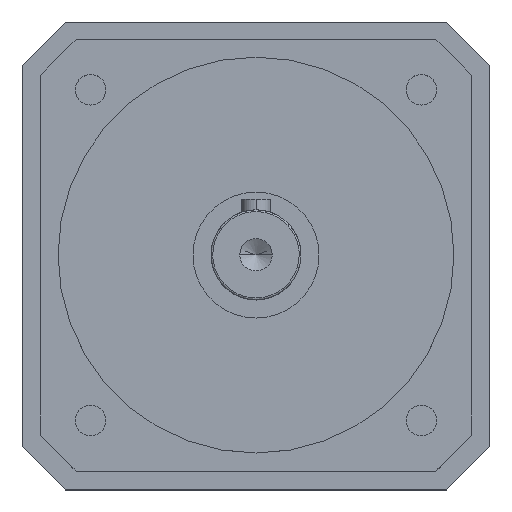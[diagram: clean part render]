
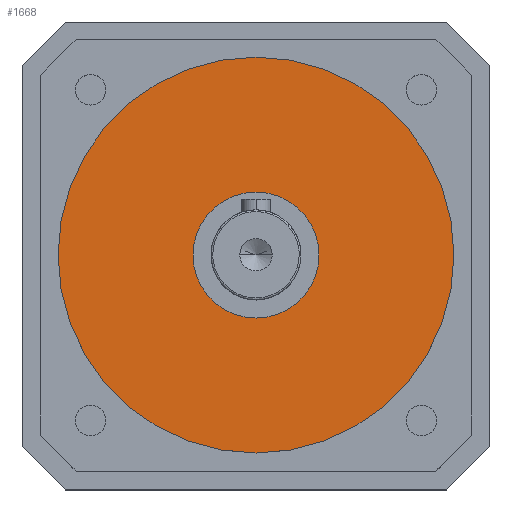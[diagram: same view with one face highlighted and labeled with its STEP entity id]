
A CAD part, top view. The second image highlights one B-rep face of the part: STEP entity #1668.
In plain terms, the highlighted planar face has unit normal (0, 0, 1).
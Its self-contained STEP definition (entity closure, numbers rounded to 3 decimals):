
#104 = VERTEX_POINT ( 'NONE', #1746 ) ;
#223 = DIRECTION ( 'NONE',  ( 0., 0., -1. ) ) ;
#240 = DIRECTION ( 'NONE',  ( 0., 0., -1. ) ) ;
#300 = EDGE_CURVE ( 'NONE', #104, #1409, #2106, .T. ) ;
#310 = EDGE_LOOP ( 'NONE', ( #874, #2340 ) ) ;
#342 = DIRECTION ( 'NONE',  ( -1., 0., 0. ) ) ;
#350 = EDGE_CURVE ( 'NONE', #1944, #1476, #1765, .T. ) ;
#589 = AXIS2_PLACEMENT_3D ( 'NONE', #892, #883, #342 ) ;
#618 = DIRECTION ( 'NONE',  ( -1., 0., 0. ) ) ;
#619 = DIRECTION ( 'NONE',  ( -1., 0., 0. ) ) ;
#783 = FACE_BOUND ( 'NONE', #1469, .T. ) ;
#860 = CARTESIAN_POINT ( 'NONE',  ( -17.5, 0., 4. ) ) ;
#874 = ORIENTED_EDGE ( 'NONE', *, *, #300, .F. ) ;
#882 = CARTESIAN_POINT ( 'NONE',  ( 0., 0., 4. ) ) ;
#883 = DIRECTION ( 'NONE',  ( 0., 0., -1. ) ) ;
#892 = CARTESIAN_POINT ( 'NONE',  ( 0., 0., 4. ) ) ;
#945 = AXIS2_PLACEMENT_3D ( 'NONE', #882, #1823, #1832 ) ;
#1226 = EDGE_CURVE ( 'NONE', #1409, #104, #2313, .T. ) ;
#1252 = AXIS2_PLACEMENT_3D ( 'NONE', #1374, #240, #618 ) ;
#1310 = DIRECTION ( 'NONE',  ( -1., 0., 0. ) ) ;
#1321 = FACE_OUTER_BOUND ( 'NONE', #310, .T. ) ;
#1374 = CARTESIAN_POINT ( 'NONE',  ( 0., 0., 4. ) ) ;
#1409 = VERTEX_POINT ( 'NONE', #2001 ) ;
#1469 = EDGE_LOOP ( 'NONE', ( #1639, #1534 ) ) ;
#1476 = VERTEX_POINT ( 'NONE', #2365 ) ;
#1534 = ORIENTED_EDGE ( 'NONE', *, *, #1866, .F. ) ;
#1639 = ORIENTED_EDGE ( 'NONE', *, *, #350, .F. ) ;
#1658 = AXIS2_PLACEMENT_3D ( 'NONE', #2431, #1862, #1310 ) ;
#1668 = ADVANCED_FACE ( 'NONE', ( #783, #1321 ), #1929, .F. ) ;
#1670 = AXIS2_PLACEMENT_3D ( 'NONE', #1750, #223, #619 ) ;
#1746 = CARTESIAN_POINT ( 'NONE',  ( -55., 0., 4. ) ) ;
#1750 = CARTESIAN_POINT ( 'NONE',  ( 0., 0., 4. ) ) ;
#1765 = CIRCLE ( 'NONE', #1658, 17.5 ) ;
#1823 = DIRECTION ( 'NONE',  ( 0., 0., 1. ) ) ;
#1832 = DIRECTION ( 'NONE',  ( -1., 0., 0. ) ) ;
#1862 = DIRECTION ( 'NONE',  ( 0., 0., 1. ) ) ;
#1866 = EDGE_CURVE ( 'NONE', #1476, #1944, #1976, .T. ) ;
#1929 = PLANE ( 'NONE',  #1670 ) ;
#1944 = VERTEX_POINT ( 'NONE', #860 ) ;
#1976 = CIRCLE ( 'NONE', #945, 17.5 ) ;
#2001 = CARTESIAN_POINT ( 'NONE',  ( 55., 0., 4. ) ) ;
#2106 = CIRCLE ( 'NONE', #589, 55. ) ;
#2313 = CIRCLE ( 'NONE', #1252, 55. ) ;
#2340 = ORIENTED_EDGE ( 'NONE', *, *, #1226, .F. ) ;
#2365 = CARTESIAN_POINT ( 'NONE',  ( 17.5, 0., 4. ) ) ;
#2431 = CARTESIAN_POINT ( 'NONE',  ( 0., 0., 4. ) ) ;
